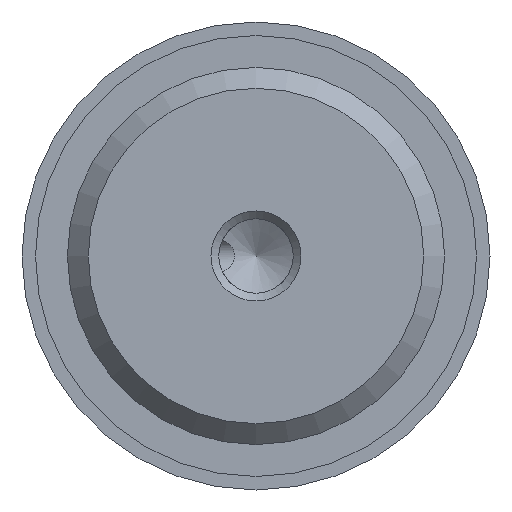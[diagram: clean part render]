
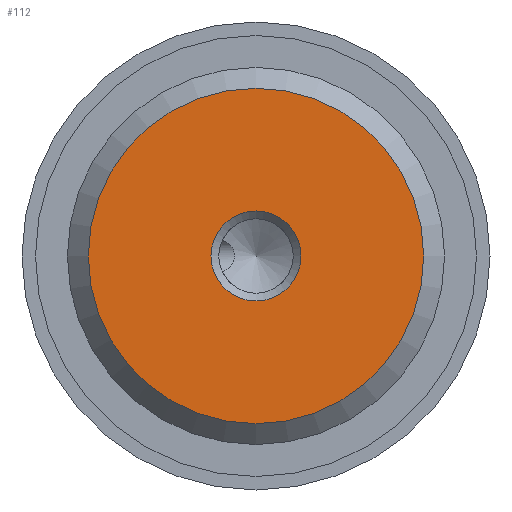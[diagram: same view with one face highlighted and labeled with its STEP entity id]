
A CAD part, front view. The second image highlights one B-rep face of the part: STEP entity #112.
In plain terms, the highlighted planar face has unit normal (0, -1, 0).
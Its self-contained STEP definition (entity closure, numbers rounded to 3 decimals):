
#112 = ADVANCED_FACE( '', ( #208, #209 ), #210, .F. );
#208 = FACE_BOUND( '', #330, .T. );
#209 = FACE_OUTER_BOUND( '', #331, .T. );
#210 = PLANE( '', #332 );
#330 = EDGE_LOOP( '', ( #652 ) );
#331 = EDGE_LOOP( '', ( #653 ) );
#332 = AXIS2_PLACEMENT_3D( '', #654, #655, #656 );
#652 = ORIENTED_EDGE( '', *, *, #874, .F. );
#653 = ORIENTED_EDGE( '', *, *, #876, .T. );
#654 = CARTESIAN_POINT( '', ( 9.316, 0., 0. ) );
#655 = DIRECTION( '', ( 0., 1., 0. ) );
#656 = DIRECTION( '', ( 0., 0., 1. ) );
#874 = EDGE_CURVE( '', #1066, #1066, #1067, .T. );
#876 = EDGE_CURVE( '', #1070, #1070, #1071, .T. );
#1066 = VERTEX_POINT( '', #1467 );
#1067 = CIRCLE( '', #1468, 2.5 );
#1070 = VERTEX_POINT( '', #1471 );
#1071 = CIRCLE( '', #1472, 9.316 );
#1467 = CARTESIAN_POINT( '', ( 2.5, 0., 0. ) );
#1468 = AXIS2_PLACEMENT_3D( '', #1603, #1604, #1605 );
#1471 = CARTESIAN_POINT( '', ( 0., 0., -9.316 ) );
#1472 = AXIS2_PLACEMENT_3D( '', #1609, #1610, #1611 );
#1603 = CARTESIAN_POINT( '', ( 0., 0., 0. ) );
#1604 = DIRECTION( '', ( 0., -1., 0. ) );
#1605 = DIRECTION( '', ( 1., 0., 0. ) );
#1609 = CARTESIAN_POINT( '', ( 0., 0., 0. ) );
#1610 = DIRECTION( '', ( 0., -1., 0. ) );
#1611 = DIRECTION( '', ( 0., 0., -1. ) );
